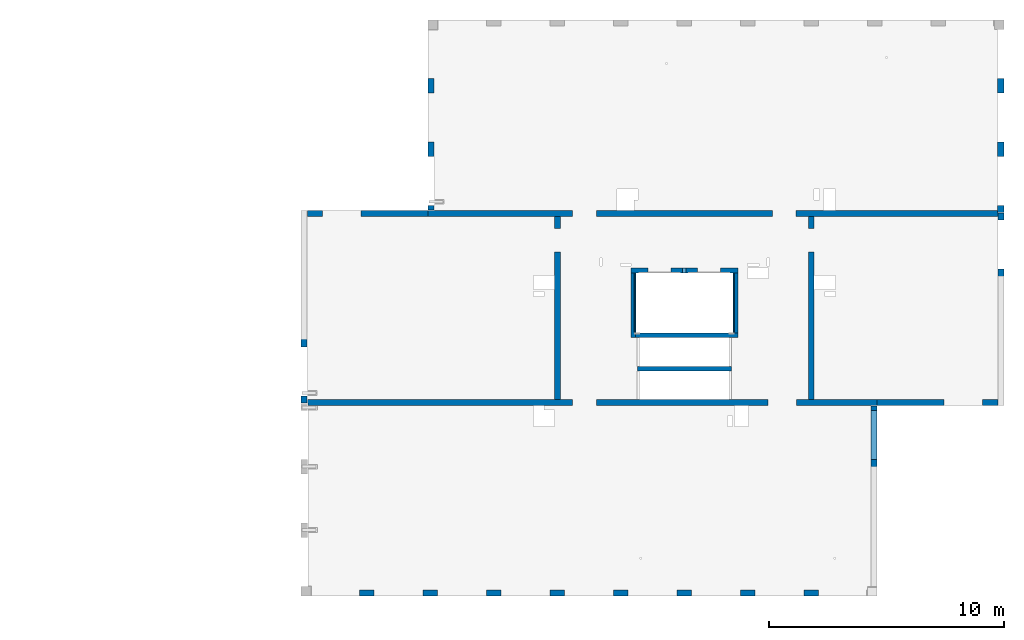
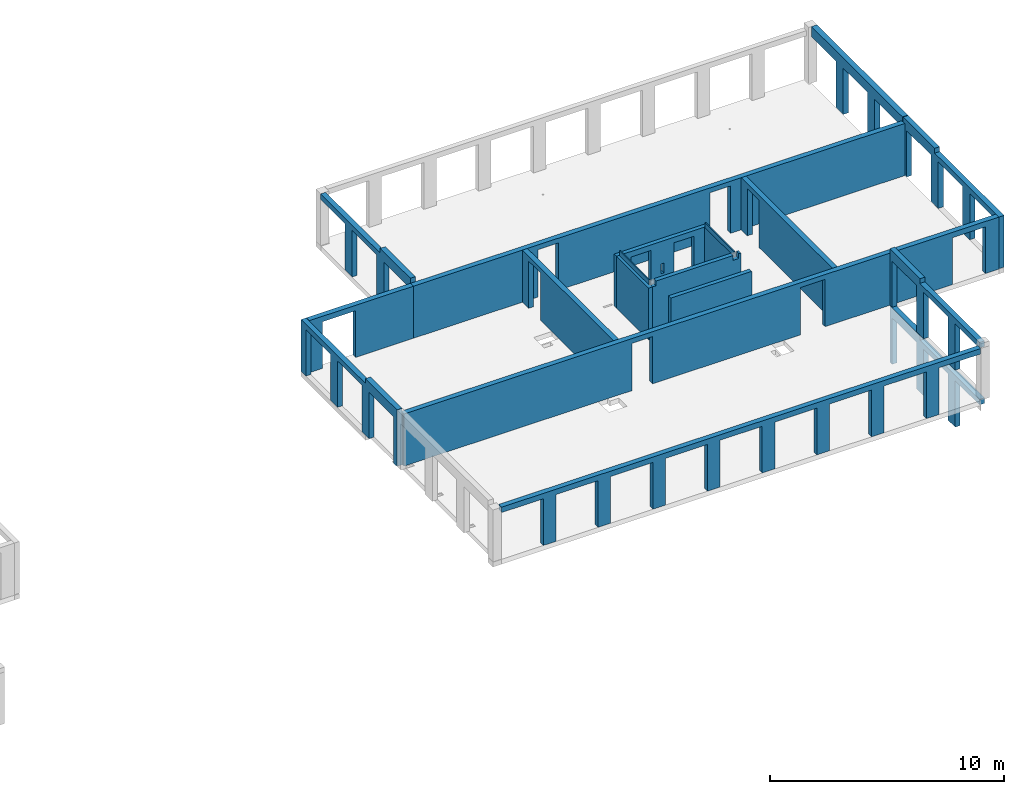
# One storey, part 4 of 9: 20 walls, 46 openings.
"""IFC2X3 building model written with IfcOpenShell, lengths in millimetres."""

import ifcopenshell
import ifcopenshell.guid

model = None  # the IFC model being written
_history = None  # IfcOwnerHistory: only IFC2X3 demands one
_inside = {}  # id of a spatial element -> (the spatial element, [elements in it])
_under = {}  # id of a project, library or spatial element -> (it, [spatial elements below it])
_declared = {}  # id of a project -> (the project, [libraries it declares])
_typed = {}  # id of a type object -> (the type object, [elements of that type])
_made_of = {}  # id of a material, layer set ... -> (it, [elements and type objects made of it])


def new_model(schema):
    """Start an empty IFC model of exactly this schema.

    Asked for "IFC4X3", IfcOpenShell would pick the latest addendum, in which some entities
    have other attributes; the version numbers below select the first issue.
    IFC2X3 requires an IfcOwnerHistory on every rooted entity: one is made here for all.
    """
    global model, _history
    if schema == "IFC4X3":
        model = ifcopenshell.file(schema_version=(4, 3, 0, 0))
    else:
        model = ifcopenshell.file(schema=schema)
    _inside.clear()
    _under.clear()
    _declared.clear()
    _typed.clear()
    _made_of.clear()
    _history = None
    if model.schema == "IFC2X3":
        org = make("IfcOrganization", Name="unknown")
        user = make(
            "IfcPersonAndOrganization",
            ThePerson=make("IfcPerson", FamilyName="unknown"),
            TheOrganization=org,
        )
        app = make(
            "IfcApplication",
            ApplicationDeveloper=org,
            Version="unknown",
            ApplicationFullName="unknown",
            ApplicationIdentifier="unknown",
        )
        _history = make(
            "IfcOwnerHistory",
            OwningUser=user,
            OwningApplication=app,
            ChangeAction="ADDED",
            CreationDate=0,
        )
    return model


def make(cls, **values):
    """One entity of the class cls with the attributes given. An attribute that is None is left unset."""
    return model.create_entity(
        cls, **{name: value for name, value in values.items() if value is not None}
    )


def entity(cls, *values):
    """Any entity or typed value of the class cls, its attributes in the order of the schema. None: left unset."""
    e = model.create_entity(cls)
    for i, value in enumerate(values):
        if value is not None:
            e[i] = value
    return e


def rooted(cls, **values):
    """An entity with a GlobalId (a new one), such as an element, a storey or a relation."""
    return make(cls, GlobalId=ifcopenshell.guid.new(), OwnerHistory=_history, **values)


def si_unit(unit_type, name, prefix=None):
    """IfcSIUnit, for example si_unit("LENGTHUNIT", "METRE", prefix="MILLI")."""
    return make("IfcSIUnit", UnitType=unit_type, Prefix=prefix, Name=name)


def converted_unit(unit_type, name, factor, base, dimensions=None, offset=None):
    """IfcConversionBasedUnit, such as the inch: factor (a typed value) times the base unit."""
    return make(
        "IfcConversionBasedUnit"
        if offset is None
        else "IfcConversionBasedUnitWithOffset",
        ConversionOffset=offset,
        Dimensions=None
        if dimensions is None
        else entity("IfcDimensionalExponents", *dimensions),
        UnitType=unit_type,
        Name=name,
        ConversionFactor=make(
            "IfcMeasureWithUnit", ValueComponent=factor, UnitComponent=base
        ),
    )


def derived_unit(unit_type, elements):
    """IfcDerivedUnit: a product of units, each with its exponent."""
    return make(
        "IfcDerivedUnit",
        Elements=[
            make("IfcDerivedUnitElement", Unit=unit, Exponent=power)
            for unit, power in elements
        ],
        UnitType=unit_type,
    )


def assignment(units):
    """IfcUnitAssignment: the units of a project."""
    return None if units is None else make("IfcUnitAssignment", Units=units)


def point(xyz):
    """IfcCartesianPoint."""
    return None if xyz is None else make("IfcCartesianPoint", Coordinates=xyz)


def direction(xyz):
    """IfcDirection."""
    return None if xyz is None else make("IfcDirection", DirectionRatios=xyz)


def frame(location, z_axis=None, x_axis=None):
    """IfcAxis2Placement3D, a coordinate frame: its origin and axes. An axis left out is left unset."""
    return make(
        "IfcAxis2Placement3D",
        Location=point(location),
        Axis=direction(z_axis),
        RefDirection=direction(x_axis),
    )


def frame_2d(location, x_axis=None):
    """IfcAxis2Placement2D, a coordinate frame in the plane: its origin and x axis."""
    return make(
        "IfcAxis2Placement2D", Location=point(location), RefDirection=direction(x_axis)
    )


def origin():
    """The frame at (0, 0, 0) with its axes left unset."""
    return frame((0.0, 0.0, 0.0))


def place(relative_to, where):
    """IfcLocalPlacement: puts the frame where relative to a parent placement (None: the world)."""
    return make(
        "IfcLocalPlacement", PlacementRelTo=relative_to, RelativePlacement=where
    )


def context(
    kind, dimensions, precision=None, world=None, true_north=None, identifier=None
):
    """IfcGeometricRepresentationContext, for example the 3D "Model" context."""
    return make(
        "IfcGeometricRepresentationContext",
        ContextIdentifier=identifier,
        ContextType=kind,
        CoordinateSpaceDimension=dimensions,
        Precision=precision,
        WorldCoordinateSystem=world,
        TrueNorth=true_north,
    )


def subcontext(parent, identifier, kind, view, scale=None):
    """IfcGeometricRepresentationSubContext, for example "Body" below "Model"."""
    return make(
        "IfcGeometricRepresentationSubContext",
        ContextIdentifier=identifier,
        ContextType=kind,
        ParentContext=parent,
        TargetScale=scale,
        TargetView=view,
    )


def project(units=None, contexts=None):
    """IfcProject with its units and contexts."""
    return rooted(
        "IfcProject",
        Name="project",
        RepresentationContexts=contexts,
        UnitsInContext=assignment(units),
    )


def spatial(cls, under=None, at=None, **own):
    """A site, building, storey or space (cls), placed at a placement, below another one or the project."""
    s = rooted(cls, ObjectPlacement=at, **own)
    if under is not None:
        _under.setdefault(under.id(), (under, []))[1].append(s)
    return s


def profile(cls, at=None, kind="AREA", **sizes):
    """A parametric profile (cls). Its sizes go by their IFC names, for example OverallWidth=200.0."""
    return make(cls, ProfileType=kind, Position=at, **sizes)


def rectangle(**sizes):
    """IfcRectangleProfileDef."""
    return profile("IfcRectangleProfileDef", **sizes)


def extrude(swept, where, along, depth):
    """IfcExtrudedAreaSolid: the profile swept, set in the frame where, extruded along a direction by depth."""
    return make(
        "IfcExtrudedAreaSolid",
        SweptArea=swept,
        Position=where,
        ExtrudedDirection=direction(along),
        Depth=depth,
    )


def shape(context_of_items, identifier, shape_type, items):
    """IfcShapeRepresentation: the items that make up one representation, for example the "Body"."""
    return make(
        "IfcShapeRepresentation",
        ContextOfItems=context_of_items,
        RepresentationIdentifier=identifier,
        RepresentationType=shape_type,
        Items=items,
    )


def material(Name=None, Category=None):
    """IfcMaterial."""
    return make("IfcMaterial", Name=Name, Category=Category)


def layer(
    of_material, thickness, ventilated=None, Name=None, Category=None, Priority=None
):
    """IfcMaterialLayer: one layer of a wall or slab, of a material (None: an air gap)."""
    return make(
        "IfcMaterialLayer",
        Material=of_material,
        LayerThickness=thickness,
        IsVentilated=ventilated,
        Name=Name,
        Category=Category,
        Priority=Priority,
    )


def layer_set(layers, Name=None):
    """IfcMaterialLayerSet."""
    return make("IfcMaterialLayerSet", MaterialLayers=layers, LayerSetName=Name)


def layer_usage(for_layer_set, set_direction, sense, offset, extent=None):
    """IfcMaterialLayerSetUsage: how a layer set lies in its element."""
    return make(
        "IfcMaterialLayerSetUsage",
        ForLayerSet=for_layer_set,
        LayerSetDirection=set_direction,
        DirectionSense=sense,
        OffsetFromReferenceLine=offset,
        ReferenceExtent=extent,
    )


def made_of(thing, what):
    """Note that an element or type object is made of a material, layer set ...; save() writes the relation."""
    if what is not None:
        _made_of.setdefault(what.id(), (what, []))[1].append(thing)
    return thing


def type_object(cls, material=None, **own):
    """A type object (cls), such as IfcWallType, which elements share."""
    return made_of(rooted(cls, **own), material)


def element(
    cls,
    number,
    at=None,
    inside=None,
    cuts=None,
    type_object=None,
    material=None,
    context=None,
    identifier="Body",
    shape_type=None,
    held_by="IfcProductDefinitionShape",
    body=None,
    shapes=None,
    **own,
):
    """One element of the class cls, such as IfcWall. Its Tag is "e" and its number.

    at: its placement. inside: the storey or other place that contains it. cuts: it is an
    opening in that element (IfcRelVoidsElement). A single representation is given by context,
    identifier, shape_type and body (its items); several are given by shapes. held_by: the class
    of the entity that holds the representations. save() writes the other relations.
    """
    e = rooted(cls, Tag="e%d" % number, ObjectPlacement=at, **own)
    if body is not None:
        shapes = [shape(context, identifier, shape_type, body)]
    if shapes is not None:
        e.Representation = make(held_by, Representations=shapes)
    if inside is not None:
        _inside.setdefault(inside.id(), (inside, []))[1].append(e)
    if cuts is not None:
        rooted(
            "IfcRelVoidsElement", RelatingBuildingElement=cuts, RelatedOpeningElement=e
        )
    if type_object is not None:
        _typed.setdefault(type_object.id(), (type_object, []))[1].append(e)
    return made_of(e, material)


def aggregate(whole, parts):
    """IfcRelAggregates: a whole, such as a stair, and the parts it consists of."""
    return rooted("IfcRelAggregates", RelatingObject=whole, RelatedObjects=parts)


def save(model, path):
    """Write the relations noted so far, then the file.

    IfcRelAggregates (storeys below a building ...), IfcRelContainedInSpatialStructure (elements
    in a storey), IfcRelDefinesByType, IfcRelAssociatesMaterial and IfcRelDeclares: one each for
    every whole, place, type object, material and project.
    """
    for whole, parts in _under.values():
        aggregate(whole, parts)
    for where, things in _inside.values():
        rooted(
            "IfcRelContainedInSpatialStructure",
            RelatedElements=things,
            RelatingStructure=where,
        )
    for kind, things in _typed.values():
        rooted("IfcRelDefinesByType", RelatedObjects=things, RelatingType=kind)
    for what, things in _made_of.values():
        rooted("IfcRelAssociatesMaterial", RelatedObjects=things, RelatingMaterial=what)
    for by, libraries in _declared.values():
        rooted("IfcRelDeclares", RelatingContext=by, RelatedDefinitions=libraries)
    model.write(path)


model = new_model("IFC2X3")

# Units and contexts
model_context = context("Model", 3, precision=0.01, world=origin(), true_north=direction((6.12303176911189e-17, 1.0)))
body_context = subcontext(model_context, "Body", "Model", "MODEL_VIEW")
ifc_project = project(units=[si_unit("LENGTHUNIT", "METRE", prefix="MILLI"), si_unit("AREAUNIT", "SQUARE_METRE"), si_unit("VOLUMEUNIT", "CUBIC_METRE"), converted_unit("PLANEANGLEUNIT", "DEGREE", entity("IfcRatioMeasure", 0.0174532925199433), si_unit("PLANEANGLEUNIT", "RADIAN"), dimensions=[0, 0, 0, 0, 0, 0, 0]), si_unit("MASSUNIT", "GRAM", prefix="KILO"), derived_unit("MASSDENSITYUNIT", [(si_unit("MASSUNIT", "GRAM", prefix="KILO"), 1), (si_unit("LENGTHUNIT", "METRE"), -3)]), si_unit("TIMEUNIT", "SECOND"), si_unit("FREQUENCYUNIT", "HERTZ"), si_unit("THERMODYNAMICTEMPERATUREUNIT", "DEGREE_CELSIUS"), derived_unit("THERMALTRANSMITTANCEUNIT", [(si_unit("MASSUNIT", "GRAM", prefix="KILO"), 1), (si_unit("THERMODYNAMICTEMPERATUREUNIT", "KELVIN"), -1), (si_unit("TIMEUNIT", "SECOND"), -3)]), derived_unit("VOLUMETRICFLOWRATEUNIT", [(si_unit("LENGTHUNIT", "METRE"), 3), (si_unit("TIMEUNIT", "SECOND"), -1)]), si_unit("ELECTRICCURRENTUNIT", "AMPERE"), si_unit("ELECTRICVOLTAGEUNIT", "VOLT"), si_unit("POWERUNIT", "WATT"), si_unit("FORCEUNIT", "NEWTON", prefix="KILO"), si_unit("ILLUMINANCEUNIT", "LUX"), si_unit("LUMINOUSFLUXUNIT", "LUMEN"), si_unit("LUMINOUSINTENSITYUNIT", "CANDELA"), derived_unit("USERDEFINED", [(si_unit("MASSUNIT", "GRAM", prefix="KILO"), -1), (si_unit("LENGTHUNIT", "METRE"), -2), (si_unit("TIMEUNIT", "SECOND"), 3), (si_unit("LUMINOUSFLUXUNIT", "LUMEN"), 1)]), derived_unit("LINEARVELOCITYUNIT", [(si_unit("LENGTHUNIT", "METRE"), 1), (si_unit("TIMEUNIT", "SECOND"), -1)]), si_unit("PRESSUREUNIT", "PASCAL"), derived_unit("USERDEFINED", [(si_unit("LENGTHUNIT", "METRE"), -2), (si_unit("MASSUNIT", "GRAM", prefix="KILO"), 1), (si_unit("TIMEUNIT", "SECOND"), -2)])], contexts=[model_context])

# Site, building, storey
site_placement = place(None, origin())
site = spatial("IfcSite", under=ifc_project, at=site_placement, Name="Default", CompositionType="ELEMENT")
building_placement = place(site_placement, origin())
building = spatial("IfcBuilding", under=site, at=building_placement, Name="niet gebruiken", CompositionType="ELEMENT")
storey_placement = place(building_placement, frame((0.0, 0.0, 33390.0)))
storey = spatial("IfcBuildingStorey", under=building, at=storey_placement, Name="11 elfde verdieping", CompositionType="ELEMENT", Elevation=33390.0)

# Wall, openings
ifc_material_1 = material(Name="NLRS_f2_beton ihwg")
ifc_layer_1 = layer(ifc_material_1, 250.0)
ifc_layer_set_1 = layer_set([ifc_layer_1], Name="Basic Wall:NLRS_22.21_WA_beton ihwg d=250_gen")
ifc_layer_usage_1 = layer_usage(ifc_layer_set_1, "AXIS2", "NEGATIVE", 125.0)
wall_type_1 = type_object("IfcWallType", Name="Basic Wall:NLRS_22.21_WA_beton ihwg d=250_gen", PredefinedType="STANDARD", material=ifc_layer_set_1)
wall_1_placement = place(storey_placement, frame((75770.0, 36981.0, -90.0)))
wall_1 = element("IfcWallStandardCase", 1, at=wall_1_placement, inside=storey, type_object=wall_type_1, material=ifc_layer_usage_1, Name="Basic Wall:NLRS_22.21_WA_beton ihwg d=250_gen", ObjectType="Basic Wall:NLRS_22.21_WA_beton ihwg d=250_gen", context=body_context, shape_type="SweptSolid", body=[
    extrude(rectangle(XDim=24230.0, YDim=250.000000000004, at=frame_2d((12115.0, 0.0), x_axis=(-1.0, 0.0))), origin(), (0.0, 0.0, 1.0), 2719.99999999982),
])
opening_1_placement = place(wall_1_placement, origin())
element("IfcOpeningElement", 2, at=opening_1_placement, cuts=wall_1, Name="Basic Wall:NLRS_22.21_WA_beton ihwg d=250_gen", ObjectType="Opening", context=body_context, shape_type="SweptSolid", body=[
    extrude(rectangle(XDim=2470.0, YDim=1225.0, at=frame_2d((-8.69704308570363e-12, 4.43378667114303e-12), x_axis=(0.0, 1.0))), frame((20192.5000000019, -1399.0, 1235.0), z_axis=(0.0, 1.0, 0.0), x_axis=(-1.0, 0.0, 0.0)), (0.0, 0.0, 1.0), 3048.0),
])
opening_2_placement = place(wall_1_placement, origin())
element("IfcOpeningElement", 3, at=opening_2_placement, cuts=wall_1, Name="Basic Wall:NLRS_22.21_WA_beton ihwg d=250_gen", ObjectType="Opening", context=body_context, shape_type="SweptSolid", body=[
    extrude(rectangle(XDim=2470.0, YDim=1006.0, at=frame_2d((8.66862137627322e-12, 0.0), x_axis=(0.0, 1.0))), frame((11782.0, -1399.0, 1235.0), z_axis=(0.0, 1.0, 0.0), x_axis=(-1.0, 0.0, 0.0)), (0.0, 0.0, 1.0), 3048.0),
])
opening_3_placement = place(wall_1_placement, origin())
element("IfcOpeningElement", 4, at=opening_3_placement, cuts=wall_1, Name="Basic Wall:NLRS_22.21_WA_beton ihwg d=250_gen", ObjectType="Recess", context=body_context, shape_type="SweptSolid", body=[
    extrude(rectangle(XDim=55000.0, YDim=19.9999999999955, at=frame_2d((0.0, 4.33164615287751e-12), x_axis=(1.0, 0.0))), frame((10.0, -140.0, 6710.0), z_axis=(0.0, 1.0, 0.0), x_axis=(0.0, 0.0, -1.0)), (0.0, 0.0, 1.0), 124.999999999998),
])

# Wall, opening
ifc_layer_usage_2 = layer_usage(ifc_layer_set_1, "AXIS2", "NEGATIVE", 125.0)
wall_2_placement = place(storey_placement, frame((75770.0, 45031.0, -90.0)))
wall_2 = element("IfcWallStandardCase", 5, at=wall_2_placement, inside=storey, type_object=wall_type_1, material=ifc_layer_usage_2, Name="Basic Wall:NLRS_22.21_WA_beton ihwg d=250_gen", ObjectType="Basic Wall:NLRS_22.21_WA_beton ihwg d=250_gen", context=body_context, shape_type="SweptSolid", body=[
    extrude(rectangle(XDim=5130.0, YDim=249.999999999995, at=frame_2d((2565.0, 0.0), x_axis=(-1.0, 0.0))), origin(), (0.0, 0.0, 1.0), 2719.99999999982),
])
opening_4_placement = place(wall_2_placement, origin())
element("IfcOpeningElement", 6, at=opening_4_placement, cuts=wall_2, Name="Basic Wall:NLRS_22.21_WA_beton ihwg d=250_gen", ObjectType="Opening", context=body_context, shape_type="SweptSolid", body=[
    extrude(rectangle(XDim=2440.0, YDim=1640.0, at=frame_2d((0.0, 4.37694325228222e-12), x_axis=(1.0, 0.0))), frame((1460.0, -1649.0, 1220.0), z_axis=(0.0, 1.0, 0.0), x_axis=(0.0, 0.0, 1.0)), (0.0, 0.0, 1.0), 3048.0),
])

ifc_layer_usage_3 = layer_usage(ifc_layer_set_1, "AXIS2", "NEGATIVE", 125.0)
wall_3_placement = place(storey_placement, frame((86400.0, 44906.0, -90.0), z_axis=(0.0, 0.0, 1.0), x_axis=(0.0, -1.0, 0.0)))
wall_3 = element("IfcWallStandardCase", 7, at=wall_3_placement, inside=storey, type_object=wall_type_1, material=ifc_layer_usage_3, Name="Basic Wall:NLRS_22.21_WA_beton ihwg d=250_gen", ObjectType="Basic Wall:NLRS_22.21_WA_beton ihwg d=250_gen", context=body_context, shape_type="SweptSolid", body=[
    extrude(rectangle(XDim=7799.99999999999, YDim=250.000000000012, at=frame_2d((3900.0, 0.0), x_axis=(-1.0, 0.0))), origin(), (0.0, 0.0, 1.0), 2719.99999999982),
])
opening_5_placement = place(wall_3_placement, origin())
element("IfcOpeningElement", 8, at=opening_5_placement, cuts=wall_3, Name="Basic Wall:NLRS_22.21_WA_beton ihwg d=250_gen", ObjectType="Opening", context=body_context, shape_type="SweptSolid", body=[
    extrude(rectangle(XDim=2470.0, YDim=1006.0, at=frame_2d((4.43378667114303e-12, 0.0), x_axis=(1.0, 0.0))), frame((1027.0, -1649.0, 1235.0), z_axis=(0.0, 1.0, 0.0), x_axis=(0.0, 0.0, 1.0)), (0.0, 0.0, 1.0), 3048.0),
])

ifc_layer_usage_4 = layer_usage(ifc_layer_set_1, "AXIS2", "NEGATIVE", 125.0)
wall_4_placement = place(storey_placement, frame((97200.0, 44906.0, -90.0), z_axis=(0.0, 0.0, 1.0), x_axis=(0.0, -1.0, 0.0)))
wall_4 = element("IfcWallStandardCase", 9, at=wall_4_placement, inside=storey, type_object=wall_type_1, material=ifc_layer_usage_4, Name="Basic Wall:NLRS_22.21_WA_beton ihwg d=250_gen", ObjectType="Basic Wall:NLRS_22.21_WA_beton ihwg d=250_gen", context=body_context, shape_type="SweptSolid", body=[
    extrude(rectangle(XDim=7799.99999999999, YDim=250.000000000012, at=frame_2d((3900.0, 0.0), x_axis=(-1.0, 0.0))), origin(), (0.0, 0.0, 1.0), 2719.99999999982),
])
opening_6_placement = place(wall_4_placement, origin())
element("IfcOpeningElement", 10, at=opening_6_placement, cuts=wall_4, Name="Basic Wall:NLRS_22.21_WA_beton ihwg d=250_gen", ObjectType="Opening", context=body_context, shape_type="SweptSolid", body=[
    extrude(rectangle(XDim=2470.0, YDim=1006.0, at=frame_2d((4.43378667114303e-12, 0.0), x_axis=(1.0, 0.0))), frame((1027.0, -1649.0, 1235.0), z_axis=(0.0, 1.0, 0.0), x_axis=(0.0, 0.0, 1.0)), (0.0, 0.0, 1.0), 3048.0),
])

# Wall, openings
ifc_layer_usage_5 = layer_usage(ifc_layer_set_1, "AXIS2", "NEGATIVE", 125.0)
wall_5_placement = place(storey_placement, frame((80900.0, 45031.0, -90.0)))
wall_5 = element("IfcWallStandardCase", 11, at=wall_5_placement, inside=storey, type_object=wall_type_1, material=ifc_layer_usage_5, Name="Basic Wall:NLRS_22.21_WA_beton ihwg d=250_gen", ObjectType="Basic Wall:NLRS_22.21_WA_beton ihwg d=250_gen", context=body_context, shape_type="SweptSolid", body=[
    extrude(rectangle(XDim=24250.0, YDim=249.999999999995, at=frame_2d((12125.0, 0.0), x_axis=(-1.0, 0.0))), origin(), (0.0, 0.0, 1.0), 2719.99999999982),
])
opening_7_placement = place(wall_5_placement, origin())
element("IfcOpeningElement", 12, at=opening_7_placement, cuts=wall_5, Name="Basic Wall:NLRS_22.21_WA_beton ihwg d=250_gen", ObjectType="Opening", context=body_context, shape_type="SweptSolid", body=[
    extrude(rectangle(XDim=2470.0, YDim=1006.0, at=frame_2d((4.43378667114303e-12, 8.66862137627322e-12), x_axis=(1.0, 0.0))), frame((15148.0, -1649.0, 1235.0), z_axis=(0.0, 1.0, 0.0), x_axis=(0.0, 0.0, 1.0)), (0.0, 0.0, 1.0), 3048.0),
])
opening_8_placement = place(wall_5_placement, origin())
element("IfcOpeningElement", 13, at=opening_8_placement, cuts=wall_5, Name="Basic Wall:NLRS_22.21_WA_beton ihwg d=250_gen", ObjectType="Opening", context=body_context, shape_type="SweptSolid", body=[
    extrude(rectangle(XDim=2470.0, YDim=1006.0, at=frame_2d((0.0, 8.66862137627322e-12), x_axis=(1.0, 0.0))), frame((6652.0, -1649.0, 1235.0), z_axis=(0.0, 1.0, 0.0), x_axis=(0.0, 0.0, 1.0)), (0.0, 0.0, 1.0), 3048.0),
])

# Wall, opening
ifc_layer_usage_6 = layer_usage(ifc_layer_set_1, "AXIS2", "NEGATIVE", 125.0)
wall_6_placement = place(storey_placement, frame((100000.0, 36981.0, -90.0)))
wall_6 = element("IfcWallStandardCase", 14, at=wall_6_placement, inside=storey, type_object=wall_type_1, material=ifc_layer_usage_6, Name="Basic Wall:NLRS_22.21_WA_beton ihwg d=250_gen", ObjectType="Basic Wall:NLRS_22.21_WA_beton ihwg d=250_gen", context=body_context, shape_type="SweptSolid", body=[
    extrude(rectangle(XDim=5150.00000000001, YDim=250.000000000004, at=frame_2d((2575.0, 0.0), x_axis=(-1.0, 0.0))), origin(), (0.0, 0.0, 1.0), 2719.99999999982),
])
opening_9_placement = place(wall_6_placement, origin())
element("IfcOpeningElement", 15, at=opening_9_placement, cuts=wall_6, Name="Basic Wall:NLRS_22.21_WA_beton ihwg d=250_gen", ObjectType="Opening", context=body_context, shape_type="SweptSolid", body=[
    extrude(rectangle(XDim=2440.0, YDim=1639.99999999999, at=frame_2d((-8.69704308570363e-12, 0.0), x_axis=(0.0, 1.0))), frame((3670.0, -1399.0, 1220.0), z_axis=(0.0, 1.0, 0.0), x_axis=(-1.0, 0.0, 0.0)), (0.0, 0.0, 1.0), 3048.0),
])

# Wall, openings
ifc_material_2 = material(Name="NLRS_f2_beton prefab")
ifc_layer_2 = layer(ifc_material_2, 250.0)
ifc_layer_set_2 = layer_set([ifc_layer_2], Name="Basic Wall:NLRS_21.21_WA_beton prefab d=250_gen")
ifc_layer_usage_7 = layer_usage(ifc_layer_set_2, "AXIS2", "NEGATIVE", 125.0)
wall_type_2 = type_object("IfcWallType", Name="Basic Wall:NLRS_21.21_WA_beton prefab d=250_gen", PredefinedType="STANDARD", material=ifc_layer_set_2)
wall_7_placement = place(storey_placement, frame((99875.0, 29166.0, -3040.0), z_axis=(0.0, 0.0, 1.0), x_axis=(0.0, 1.0, 0.0)))
wall_7 = element("IfcWallStandardCase", 16, at=wall_7_placement, inside=storey, type_object=wall_type_2, material=ifc_layer_usage_7, Name="Basic Wall:NLRS_21.21_WA_beton prefab d=250_gen", ObjectType="Basic Wall:NLRS_21.21_WA_beton prefab d=250_gen", context=body_context, shape_type="SweptSolid", body=[
    extrude(rectangle(XDim=7669.99999999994, YDim=250.000000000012, at=frame_2d((3834.99999999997, 0.0), x_axis=(-1.0, 0.0))), origin(), (0.0, 0.0, 1.0), 2949.99999999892),
])
opening_10_placement = place(wall_7_placement, origin())
element("IfcOpeningElement", 17, at=opening_10_placement, cuts=wall_7, Name="Basic Wall:NLRS_21.21_WA_beton prefab d=250_gen", ObjectType="Opening", context=body_context, shape_type="SweptSolid", body=[
    extrude(rectangle(XDim=2420.0, YDim=2080.0, at=frame_2d((-2.1600499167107e-12, 2.1600499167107e-12), x_axis=(0.0, 1.0))), frame((1040.0, -1399.0, 1210.0), z_axis=(0.0, 1.0, 0.0), x_axis=(-1.0, 0.0, 0.0)), (0.0, 0.0, 1.0), 3048.0),
])
opening_11_placement = place(wall_7_placement, origin())
element("IfcOpeningElement", 18, at=opening_11_placement, cuts=wall_7, Name="Basic Wall:NLRS_21.21_WA_beton prefab d=250_gen", ObjectType="Opening", context=body_context, shape_type="SweptSolid", body=[
    extrude(rectangle(XDim=2420.0, YDim=2080.0, at=frame_2d((2.1600499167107e-12, -2.1600499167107e-12), x_axis=(0.0, 1.0))), frame((3740.0, -1399.0, 1210.0), z_axis=(0.0, 1.0, 0.0), x_axis=(-1.0, 0.0, 0.0)), (0.0, 0.0, 1.0), 3048.0),
])
opening_12_placement = place(wall_7_placement, origin())
element("IfcOpeningElement", 19, at=opening_12_placement, cuts=wall_7, Name="Basic Wall:NLRS_21.21_WA_beton prefab d=250_gen", ObjectType="Opening", context=body_context, shape_type="SweptSolid", body=[
    extrude(rectangle(XDim=2420.0, YDim=2080.0, at=frame_2d((2.1600499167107e-12, -2.1600499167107e-12), x_axis=(0.0, 1.0))), frame((6440.0, -1399.0, 1210.0), z_axis=(0.0, 1.0, 0.0), x_axis=(-1.0, 0.0, 0.0)), (0.0, 0.0, 1.0), 3048.0),
])
opening_13_placement = place(wall_7_placement, origin())
element("IfcOpeningElement", 20, at=opening_13_placement, cuts=wall_7, Name="Basic Wall:NLRS_21.21_WA_beton prefab d=250_gen", ObjectType="Opening", context=body_context, shape_type="SweptSolid", body=[
    extrude(rectangle(XDim=249.999999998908, YDim=5090.00000000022, at=frame_2d((0.0, -2.16715534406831e-12), x_axis=(0.0, 1.0))), frame((2545.0, 125.0, 2825.0), z_axis=(0.0, -1.0, 0.0), x_axis=(-1.0, 0.0, 0.0)), (0.0, 0.0, 1.0), 250.0),
])

ifc_layer_usage_8 = layer_usage(ifc_layer_set_2, "AXIS2", "NEGATIVE", 125.0)
wall_8_placement = place(storey_placement, frame((75625.0, 45156.0, -70.0), z_axis=(0.0, 0.0, 1.0), x_axis=(0.0, -1.0, 0.0)))
wall_8 = element("IfcWallStandardCase", 21, at=wall_8_placement, inside=storey, type_object=wall_type_2, material=ifc_layer_usage_8, Name="Basic Wall:NLRS_21.21_WA_beton prefab d=250_gen", ObjectType="Basic Wall:NLRS_21.21_WA_beton prefab d=250_gen", context=body_context, shape_type="SweptSolid", body=[
    extrude(rectangle(XDim=8189.99999999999, YDim=249.999999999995, at=frame_2d((4095.0, 0.0), x_axis=(-1.0, 0.0))), origin(), (0.0, 0.0, 1.0), 2949.99999999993),
])
opening_14_placement = place(wall_8_placement, origin())
element("IfcOpeningElement", 22, at=opening_14_placement, cuts=wall_8, Name="Basic Wall:NLRS_21.21_WA_beton prefab d=250_gen", ObjectType="Opening", context=body_context, shape_type="SweptSolid", body=[
    extrude(rectangle(XDim=2420.0, YDim=2080.0, at=frame_2d((0.0, 2.1600499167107e-12), x_axis=(0.0, 1.0))), frame((1450.0, -1399.0, 1210.0), z_axis=(0.0, 1.0, 0.0), x_axis=(-1.0, 0.0, 0.0)), (0.0, 0.0, 1.0), 3048.0),
])
opening_15_placement = place(wall_8_placement, origin())
element("IfcOpeningElement", 23, at=opening_15_placement, cuts=wall_8, Name="Basic Wall:NLRS_21.21_WA_beton prefab d=250_gen", ObjectType="Opening", context=body_context, shape_type="SweptSolid", body=[
    extrude(rectangle(XDim=2420.0, YDim=2080.0, at=frame_2d((0.0, 2.1600499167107e-12), x_axis=(0.0, 1.0))), frame((4150.0, -1399.0, 1210.0), z_axis=(0.0, 1.0, 0.0), x_axis=(-1.0, 0.0, 0.0)), (0.0, 0.0, 1.0), 3048.0),
])
opening_16_placement = place(wall_8_placement, origin())
element("IfcOpeningElement", 24, at=opening_16_placement, cuts=wall_8, Name="Basic Wall:NLRS_21.21_WA_beton prefab d=250_gen", ObjectType="Opening", context=body_context, shape_type="SweptSolid", body=[
    extrude(rectangle(XDim=2420.0, YDim=2080.0, at=frame_2d((0.0, -2.1600499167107e-12), x_axis=(0.0, 1.0))), frame((6850.0, -1399.0, 1210.0), z_axis=(0.0, 1.0, 0.0), x_axis=(-1.0, 0.0, 0.0)), (0.0, 0.0, 1.0), 3048.0),
])
opening_17_placement = place(wall_8_placement, origin())
element("IfcOpeningElement", 25, at=opening_17_placement, cuts=wall_8, Name="Basic Wall:NLRS_21.21_WA_beton prefab d=250_gen", ObjectType="Opening", context=body_context, shape_type="SweptSolid", body=[
    extrude(rectangle(XDim=250.000000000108, YDim=5499.99999999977, at=frame_2d((0.0, 0.0), x_axis=(0.0, 1.0))), frame((2750.0, 125.0, 2825.0), z_axis=(0.0, -1.0, 0.0), x_axis=(-1.0, 0.0, 0.0)), (0.0, 0.0, 1.0), 250.0),
])

ifc_layer_usage_9 = layer_usage(ifc_layer_set_2, "AXIS2", "NEGATIVE", 125.0)
wall_9_placement = place(storey_placement, frame((81025.0, 52846.0, -70.0), z_axis=(0.0, 0.0, 1.0), x_axis=(0.0, -1.0, 0.0)))
wall_9 = element("IfcWallStandardCase", 26, at=wall_9_placement, inside=storey, type_object=wall_type_2, material=ifc_layer_usage_9, Name="Basic Wall:NLRS_21.21_WA_beton prefab d=250_gen", ObjectType="Basic Wall:NLRS_21.21_WA_beton prefab d=250_gen", context=body_context, shape_type="SweptSolid", body=[
    extrude(rectangle(XDim=7670.00000000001, YDim=250.000000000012, at=frame_2d((3835.0, 0.0), x_axis=(-1.0, 0.0))), origin(), (0.0, 0.0, 1.0), 2949.99999999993),
])
opening_18_placement = place(wall_9_placement, origin())
element("IfcOpeningElement", 27, at=opening_18_placement, cuts=wall_9, Name="Basic Wall:NLRS_21.21_WA_beton prefab d=250_gen", ObjectType="Opening", context=body_context, shape_type="SweptSolid", body=[
    extrude(rectangle(XDim=2420.0, YDim=2080.0, at=frame_2d((-8.64019966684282e-12, -2.1600499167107e-12), x_axis=(0.0, 1.0))), frame((1040.0, -1399.0, 1210.0), z_axis=(0.0, 1.0, 0.0), x_axis=(-1.0, 0.0, 0.0)), (0.0, 0.0, 1.0), 3048.0),
])
opening_19_placement = place(wall_9_placement, origin())
element("IfcOpeningElement", 28, at=opening_19_placement, cuts=wall_9, Name="Basic Wall:NLRS_21.21_WA_beton prefab d=250_gen", ObjectType="Opening", context=body_context, shape_type="SweptSolid", body=[
    extrude(rectangle(XDim=2420.0, YDim=2080.0, at=frame_2d((0.0, 2.1600499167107e-12), x_axis=(0.0, 1.0))), frame((3740.0, -1399.0, 1210.0), z_axis=(0.0, 1.0, 0.0), x_axis=(-1.0, 0.0, 0.0)), (0.0, 0.0, 1.0), 3048.0),
])
opening_20_placement = place(wall_9_placement, origin())
element("IfcOpeningElement", 29, at=opening_20_placement, cuts=wall_9, Name="Basic Wall:NLRS_21.21_WA_beton prefab d=250_gen", ObjectType="Opening", context=body_context, shape_type="SweptSolid", body=[
    extrude(rectangle(XDim=2420.0, YDim=2080.0, at=frame_2d((0.0, -2.1600499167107e-12), x_axis=(0.0, 1.0))), frame((6440.0, -1399.0, 1210.0), z_axis=(0.0, 1.0, 0.0), x_axis=(-1.0, 0.0, 0.0)), (0.0, 0.0, 1.0), 3048.0),
])
opening_21_placement = place(wall_9_placement, origin())
element("IfcOpeningElement", 30, at=opening_21_placement, cuts=wall_9, Name="Basic Wall:NLRS_21.21_WA_beton prefab d=250_gen", ObjectType="Opening", context=body_context, shape_type="SweptSolid", body=[
    extrude(rectangle(XDim=250.000000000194, YDim=5089.99999999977, at=frame_2d((-4.32009983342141e-12, 0.0), x_axis=(0.0, 1.0))), frame((2545.0, 125.0, 2825.0), z_axis=(0.0, -1.0, 0.0), x_axis=(-1.0, 0.0, 0.0)), (0.0, 0.0, 1.0), 250.0),
])

ifc_layer_usage_10 = layer_usage(ifc_layer_set_2, "AXIS2", "NEGATIVE", 125.0)
wall_10_placement = place(storey_placement, frame((105275.0, 45046.0, -70.0), z_axis=(0.0, 0.0, 1.0), x_axis=(0.0, -1.0, 0.0)))
wall_10 = element("IfcWallStandardCase", 31, at=wall_10_placement, inside=storey, type_object=wall_type_2, material=ifc_layer_usage_10, Name="Basic Wall:NLRS_21.21_WA_beton prefab d=250_gen", ObjectType="Basic Wall:NLRS_21.21_WA_beton prefab d=250_gen", context=body_context, shape_type="SweptSolid", body=[
    extrude(rectangle(XDim=8189.99999999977, YDim=250.000000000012, at=frame_2d((4094.99999999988, 0.0), x_axis=(-1.0, 0.0))), origin(), (0.0, 0.0, 1.0), 2949.99999999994),
])
opening_22_placement = place(wall_10_placement, origin())
element("IfcOpeningElement", 32, at=opening_22_placement, cuts=wall_10, Name="Basic Wall:NLRS_21.21_WA_beton prefab d=250_gen", ObjectType="Opening", context=body_context, shape_type="SweptSolid", body=[
    extrude(rectangle(XDim=2420.0, YDim=2080.0, at=frame_2d((0.0, -2.1600499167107e-12), x_axis=(0.0, 1.0))), frame((1340.0, -1399.0, 1210.0), z_axis=(0.0, 1.0, 0.0), x_axis=(-1.0, 0.0, 0.0)), (0.0, 0.0, 1.0), 3048.0),
])
opening_23_placement = place(wall_10_placement, origin())
element("IfcOpeningElement", 33, at=opening_23_placement, cuts=wall_10, Name="Basic Wall:NLRS_21.21_WA_beton prefab d=250_gen", ObjectType="Opening", context=body_context, shape_type="SweptSolid", body=[
    extrude(rectangle(XDim=2420.0, YDim=2080.0, at=frame_2d((0.0, -2.1600499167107e-12), x_axis=(0.0, 1.0))), frame((4040.0, -1399.0, 1210.0), z_axis=(0.0, 1.0, 0.0), x_axis=(-1.0, 0.0, 0.0)), (0.0, 0.0, 1.0), 3048.0),
])
opening_24_placement = place(wall_10_placement, origin())
element("IfcOpeningElement", 34, at=opening_24_placement, cuts=wall_10, Name="Basic Wall:NLRS_21.21_WA_beton prefab d=250_gen", ObjectType="Opening", context=body_context, shape_type="SweptSolid", body=[
    extrude(rectangle(XDim=2420.0, YDim=2080.0, at=frame_2d((0.0, -2.1600499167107e-12), x_axis=(0.0, 1.0))), frame((6740.0, -1399.0, 1210.0), z_axis=(0.0, 1.0, 0.0), x_axis=(-1.0, 0.0, 0.0)), (0.0, 0.0, 1.0), 3048.0),
])
opening_25_placement = place(wall_10_placement, origin())
element("IfcOpeningElement", 35, at=opening_25_placement, cuts=wall_10, Name="Basic Wall:NLRS_21.21_WA_beton prefab d=250_gen", ObjectType="Opening", context=body_context, shape_type="SweptSolid", body=[
    extrude(rectangle(XDim=249.99999999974, YDim=5500.0000000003, at=frame_2d((2.16715534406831e-12, 4.32009983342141e-12), x_axis=(1.0, 0.0))), frame((5440.0, 125.0, 2825.0), z_axis=(0.0, -1.0, 0.0), x_axis=(0.0, 0.0, 1.0)), (0.0, 0.0, 1.0), 250.0),
])

ifc_layer_usage_11 = layer_usage(ifc_layer_set_2, "AXIS2", "NEGATIVE", 125.0)
wall_11_placement = place(storey_placement, frame((99875.0, 29166.0, -70.0), z_axis=(0.0, 0.0, 1.0), x_axis=(0.0, 1.0, 0.0)))
wall_11 = element("IfcWallStandardCase", 36, at=wall_11_placement, inside=storey, type_object=wall_type_2, material=ifc_layer_usage_11, Name="Basic Wall:NLRS_21.21_WA_beton prefab d=250_gen", ObjectType="Basic Wall:NLRS_21.21_WA_beton prefab d=250_gen", context=body_context, shape_type="SweptSolid", body=[
    extrude(rectangle(XDim=7669.99999999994, YDim=250.000000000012, at=frame_2d((3834.99999999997, 0.0), x_axis=(-1.0, 0.0))), origin(), (0.0, 0.0, 1.0), 2949.99999999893),
])
opening_26_placement = place(wall_11_placement, origin())
element("IfcOpeningElement", 37, at=opening_26_placement, cuts=wall_11, Name="Basic Wall:NLRS_21.21_WA_beton prefab d=250_gen", ObjectType="Opening", context=body_context, shape_type="SweptSolid", body=[
    extrude(rectangle(XDim=2420.0, YDim=2080.0, at=frame_2d((2.1600499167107e-12, -2.1600499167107e-12), x_axis=(0.0, 1.0))), frame((1040.0, -1399.0, 1210.0), z_axis=(0.0, 1.0, 0.0), x_axis=(-1.0, 0.0, 0.0)), (0.0, 0.0, 1.0), 3048.0),
])
opening_27_placement = place(wall_11_placement, origin())
element("IfcOpeningElement", 38, at=opening_27_placement, cuts=wall_11, Name="Basic Wall:NLRS_21.21_WA_beton prefab d=250_gen", ObjectType="Opening", context=body_context, shape_type="SweptSolid", body=[
    extrude(rectangle(XDim=2420.0, YDim=2080.0, at=frame_2d((2.1600499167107e-12, -2.1600499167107e-12), x_axis=(0.0, 1.0))), frame((6440.0, -1399.0, 1210.0), z_axis=(0.0, 1.0, 0.0), x_axis=(-1.0, 0.0, 0.0)), (0.0, 0.0, 1.0), 3048.0),
])
opening_28_placement = place(wall_11_placement, origin())
element("IfcOpeningElement", 39, at=opening_28_placement, cuts=wall_11, Name="Basic Wall:NLRS_21.21_WA_beton prefab d=250_gen", ObjectType="Opening", context=body_context, shape_type="SweptSolid", body=[
    extrude(rectangle(XDim=2420.0, YDim=2080.0, at=frame_2d((2.1600499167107e-12, -2.1600499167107e-12), x_axis=(0.0, 1.0))), frame((3740.0, -1399.0, 1210.0), z_axis=(0.0, 1.0, 0.0), x_axis=(-1.0, 0.0, 0.0)), (0.0, 0.0, 1.0), 3048.0),
])
opening_29_placement = place(wall_11_placement, origin())
element("IfcOpeningElement", 40, at=opening_29_placement, cuts=wall_11, Name="Basic Wall:NLRS_21.21_WA_beton prefab d=250_gen", ObjectType="Opening", context=body_context, shape_type="SweptSolid", body=[
    extrude(rectangle(XDim=249.999999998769, YDim=5090.00000000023, at=frame_2d((0.0, -2.1600499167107e-12), x_axis=(0.0, 1.0))), frame((2545.0, 125.0, 2825.0), z_axis=(0.0, -1.0, 0.0), x_axis=(-1.0, 0.0, 0.0)), (0.0, 0.0, 1.0), 250.0),
])

# Wall
ifc_layer_3 = layer(ifc_material_2, 200.0)
ifc_layer_set_3 = layer_set([ifc_layer_3], Name="Basic Wall:NLRS_21.21_WA_beton prefab d=200_gen")
ifc_layer_usage_12 = layer_usage(ifc_layer_set_3, "AXIS2", "NEGATIVE", 100.0)
wall_type_3 = type_object("IfcWallType", Name="Basic Wall:NLRS_21.21_WA_beton prefab d=200_gen", PredefinedType="STANDARD", material=ifc_layer_set_3)
wall_12_placement = place(storey_placement, frame((89800.0, 38426.0, -70.0)))
element("IfcWallStandardCase", 41, at=wall_12_placement, inside=storey, type_object=wall_type_3, material=ifc_layer_usage_12, Name="Basic Wall:NLRS_21.21_WA_beton prefab d=200_gen", ObjectType="Basic Wall:NLRS_21.21_WA_beton prefab d=200_gen", context=body_context, shape_type="SweptSolid", body=[
    extrude(rectangle(XDim=3999.99999999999, YDim=199.999999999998, at=frame_2d((2000.0, 0.0), x_axis=(-1.0, 0.0))), origin(), (0.0, 0.0, 1.0), 2950.00000000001),
])

# Wall, openings
ifc_layer_4 = layer(ifc_material_2, 200.0)
ifc_layer_set_4 = layer_set([ifc_layer_4], Name="Basic Wall:NLRS_22.21_WA_beton prefab d=200_gen")
ifc_layer_usage_13 = layer_usage(ifc_layer_set_4, "AXIS2", "NEGATIVE", 100.0)
wall_type_4 = type_object("IfcWallType", Name="Basic Wall:NLRS_22.21_WA_beton prefab d=200_gen", PredefinedType="STANDARD", material=ifc_layer_set_4)
wall_13_placement = place(storey_placement, frame((89525.0, 42596.0, -70.0)))
wall_13 = element("IfcWallStandardCase", 42, at=wall_13_placement, inside=storey, type_object=wall_type_4, material=ifc_layer_usage_13, Name="Basic Wall:NLRS_22.21_WA_beton prefab d=200_gen", ObjectType="Basic Wall:NLRS_22.21_WA_beton prefab d=200_gen", context=body_context, shape_type="SweptSolid", body=[
    extrude(rectangle(XDim=4550.00000000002, YDim=200.000000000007, at=frame_2d((2275.00000000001, 7.8159700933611e-13), x_axis=(-1.0, 0.0))), origin(), (0.0, 0.0, 1.0), 2700.00000000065),
])
opening_30_placement = place(wall_13_placement, origin())
element("IfcOpeningElement", 43, at=opening_30_placement, cuts=wall_13, Name="Basic Wall:NLRS_22.21_WA_beton prefab d=200_gen", ObjectType="Opening", context=body_context, shape_type="SweptSolid", body=[
    extrude(rectangle(XDim=2430.0, YDim=980.000000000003, at=frame_2d((0.0, -8.66862137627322e-12), x_axis=(1.0, 0.0))), frame((1219.99984910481, -1624.0, 1195.0), z_axis=(0.0, 1.0, 0.0), x_axis=(0.0, 0.0, 1.0)), (0.0, 0.0, 1.0), 3048.0),
])
opening_31_placement = place(wall_13_placement, origin())
element("IfcOpeningElement", 44, at=opening_31_placement, cuts=wall_13, Name="Basic Wall:NLRS_22.21_WA_beton prefab d=200_gen", ObjectType="Opening", context=body_context, shape_type="SweptSolid", body=[
    extrude(rectangle(XDim=2430.0, YDim=980.000000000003, at=frame_2d((0.0, -8.66862137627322e-12), x_axis=(1.0, 0.0))), frame((3329.99984910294, -1624.0, 1195.0), z_axis=(0.0, 1.0, 0.0), x_axis=(0.0, 0.0, 1.0)), (0.0, 0.0, 1.0), 3048.0),
])
opening_32_placement = place(wall_13_placement, origin())
element("IfcOpeningElement", 45, at=opening_32_placement, cuts=wall_13, Name="Basic Wall:NLRS_22.21_WA_beton prefab d=200_gen", ObjectType="Opening", context=body_context, shape_type="SweptSolid", body=[
    extrude(rectangle(XDim=504.999999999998, YDim=135.000000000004, at=frame_2d((-2.1600499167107e-12, -8.66151594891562e-12), x_axis=(1.0, 0.0))), frame((2275.0, -1624.0, 1272.50000000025), z_axis=(0.0, 1.0, 0.0), x_axis=(0.0, 0.0, 1.0)), (0.0, 0.0, 1.0), 3048.0),
])

# Wall
ifc_layer_usage_14 = layer_usage(ifc_layer_set_4, "AXIS2", "NEGATIVE", 100.0)
wall_14_placement = place(storey_placement, frame((89625.0, 42496.0, -70.0), z_axis=(0.0, 0.0, 1.0), x_axis=(0.0, -1.0, 0.0)))
element("IfcWallStandardCase", 46, at=wall_14_placement, inside=storey, type_object=wall_type_4, material=ifc_layer_usage_14, Name="Basic Wall:NLRS_22.21_WA_beton prefab d=200_gen", ObjectType="Basic Wall:NLRS_22.21_WA_beton prefab d=200_gen", context=body_context, shape_type="SweptSolid", body=[
    extrude(rectangle(XDim=2749.99999999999, YDim=199.999999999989, at=frame_2d((1375.0, 0.0), x_axis=(-1.0, 0.0))), origin(), (0.0, 0.0, 1.0), 2699.99999999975),
])

# Wall, openings
ifc_layer_usage_15 = layer_usage(ifc_layer_set_4, "AXIS2", "NEGATIVE", 100.0)
wall_15_placement = place(storey_placement, frame((94075.0, 39846.0, -70.0), z_axis=(0.0, 0.0, 1.0), x_axis=(-1.0, 0.0, 0.0)))
wall_15 = element("IfcWallStandardCase", 47, at=wall_15_placement, inside=storey, type_object=wall_type_4, material=ifc_layer_usage_15, Name="Basic Wall:NLRS_22.21_WA_beton prefab d=200_gen", ObjectType="Basic Wall:NLRS_22.21_WA_beton prefab d=200_gen", context=body_context, shape_type="SweptSolid", body=[
    extrude(rectangle(XDim=4350.00000000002, YDim=200.000000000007, at=frame_2d((2175.00000000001, 0.0), x_axis=(-1.0, 0.0))), origin(), (0.0, 0.0, 1.0), 2949.99999999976),
])
opening_33_placement = place(wall_15_placement, origin())
element("IfcOpeningElement", 48, at=opening_33_placement, cuts=wall_15, Name="Basic Wall:NLRS_22.21_WA_beton prefab d=200_gen", ObjectType="Opening", context=body_context, shape_type="SweptSolid", body=[
    extrude(rectangle(XDim=249.999999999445, YDim=274.999967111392, at=frame_2d((-2.16715534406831e-12, 0.0), x_axis=(1.0, 0.0))), frame((4312.50001644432, 100.0, 2825.0), z_axis=(0.0, -1.0, 0.0), x_axis=(0.0, 0.0, 1.0)), (0.0, 0.0, 1.0), 200.0),
])
opening_34_placement = place(wall_15_placement, origin())
element("IfcOpeningElement", 49, at=opening_34_placement, cuts=wall_15, Name="Basic Wall:NLRS_22.21_WA_beton prefab d=200_gen", ObjectType="Opening", context=body_context, shape_type="SweptSolid", body=[
    extrude(rectangle(XDim=249.999999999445, YDim=274.999967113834, at=frame_2d((-8.65441052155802e-12, 2.16715534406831e-12), x_axis=(0.0, 1.0))), frame((237.49998355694, 100.0, 2825.0), z_axis=(0.0, -1.0, 0.0), x_axis=(-1.0, 0.0, 0.0)), (0.0, 0.0, 1.0), 200.0),
])

# Wall
ifc_layer_usage_16 = layer_usage(ifc_layer_set_4, "AXIS2", "NEGATIVE", 100.0)
wall_16_placement = place(storey_placement, frame((93975.0, 39946.0, -70.0), z_axis=(0.0, 0.0, 1.0), x_axis=(0.0, 1.0, 0.0)))
element("IfcWallStandardCase", 50, at=wall_16_placement, inside=storey, type_object=wall_type_4, material=ifc_layer_usage_16, Name="Basic Wall:NLRS_22.21_WA_beton prefab d=200_gen", ObjectType="Basic Wall:NLRS_22.21_WA_beton prefab d=200_gen", context=body_context, shape_type="SweptSolid", body=[
    extrude(rectangle(XDim=2549.99999999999, YDim=199.999999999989, at=frame_2d((1275.0, 0.0), x_axis=(-1.0, 0.0))), origin(), (0.0, 0.0, 1.0), 2699.99999999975),
])

# Wall, openings
ifc_layer_5 = layer(ifc_material_1, 250.0)
ifc_layer_set_5 = layer_set([ifc_layer_5], Name="Basic Wall:NLRS_21.21_WA_beton ihwg d=250_gen")
ifc_layer_usage_17 = layer_usage(ifc_layer_set_5, "AXIS2", "NEGATIVE", 125.0)
wall_type_5 = type_object("IfcWallType", Name="Basic Wall:NLRS_21.21_WA_beton ihwg d=250_gen", PredefinedType="STANDARD", material=ifc_layer_set_5)
wall_17_placement = place(storey_placement, frame((75930.0, 28881.0, -90.0)))
wall_17 = element("IfcWallStandardCase", 51, at=wall_17_placement, inside=storey, type_object=wall_type_5, material=ifc_layer_usage_17, Name="Basic Wall:NLRS_21.21_WA_beton ihwg d=250_gen", ObjectType="Basic Wall:NLRS_21.21_WA_beton ihwg d=250_gen", context=body_context, shape_type="SweptSolid", body=[
    extrude(rectangle(XDim=23640.0000000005, YDim=250.000000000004, at=frame_2d((11820.0000000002, -8.66862137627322e-13), x_axis=(-1.0, 0.0))), origin(), (0.0, 0.0, 1.0), 2720.00000000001),
])
opening_35_placement = place(wall_17_placement, origin())
element("IfcOpeningElement", 52, at=opening_35_placement, cuts=wall_17, Name="Basic Wall:NLRS_21.21_WA_beton ihwg d=250_gen", ObjectType="Opening", context=body_context, shape_type="SweptSolid", body=[
    extrude(rectangle(XDim=2440.0, YDim=2080.0, at=frame_2d((-8.64019966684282e-12, -2.1600499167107e-12), x_axis=(0.0, 1.0))), frame((22620.0, -1399.0, 1220.0), z_axis=(0.0, 1.0, 0.0), x_axis=(-1.0, 0.0, 0.0)), (0.0, 0.0, 1.0), 3048.0),
])
opening_36_placement = place(wall_17_placement, origin())
element("IfcOpeningElement", 53, at=opening_36_placement, cuts=wall_17, Name="Basic Wall:NLRS_21.21_WA_beton ihwg d=250_gen", ObjectType="Opening", context=body_context, shape_type="SweptSolid", body=[
    extrude(rectangle(XDim=2440.0, YDim=2080.0, at=frame_2d((-8.64019966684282e-12, 0.0), x_axis=(0.0, 1.0))), frame((19920.0, -1399.0, 1220.0), z_axis=(0.0, 1.0, 0.0), x_axis=(-1.0, 0.0, 0.0)), (0.0, 0.0, 1.0), 3048.0),
])
opening_37_placement = place(wall_17_placement, origin())
element("IfcOpeningElement", 54, at=opening_37_placement, cuts=wall_17, Name="Basic Wall:NLRS_21.21_WA_beton ihwg d=250_gen", ObjectType="Opening", context=body_context, shape_type="SweptSolid", body=[
    extrude(rectangle(XDim=2440.0, YDim=2080.0, at=frame_2d((-8.64019966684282e-12, -2.1600499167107e-12), x_axis=(0.0, 1.0))), frame((17220.0, -1399.0, 1220.0), z_axis=(0.0, 1.0, 0.0), x_axis=(-1.0, 0.0, 0.0)), (0.0, 0.0, 1.0), 3048.0),
])
opening_38_placement = place(wall_17_placement, origin())
element("IfcOpeningElement", 55, at=opening_38_placement, cuts=wall_17, Name="Basic Wall:NLRS_21.21_WA_beton ihwg d=250_gen", ObjectType="Opening", context=body_context, shape_type="SweptSolid", body=[
    extrude(rectangle(XDim=2440.0, YDim=2080.0, at=frame_2d((8.64019966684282e-12, 0.0), x_axis=(0.0, 1.0))), frame((14520.0, -1399.0, 1220.0), z_axis=(0.0, 1.0, 0.0), x_axis=(-1.0, 0.0, 0.0)), (0.0, 0.0, 1.0), 3048.0),
])
opening_39_placement = place(wall_17_placement, origin())
element("IfcOpeningElement", 56, at=opening_39_placement, cuts=wall_17, Name="Basic Wall:NLRS_21.21_WA_beton ihwg d=250_gen", ObjectType="Opening", context=body_context, shape_type="SweptSolid", body=[
    extrude(rectangle(XDim=2440.0, YDim=2080.0, at=frame_2d((-8.64019966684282e-12, -2.1600499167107e-12), x_axis=(0.0, 1.0))), frame((11820.0, -1399.0, 1220.0), z_axis=(0.0, 1.0, 0.0), x_axis=(-1.0, 0.0, 0.0)), (0.0, 0.0, 1.0), 3048.0),
])
opening_40_placement = place(wall_17_placement, origin())
element("IfcOpeningElement", 57, at=opening_40_placement, cuts=wall_17, Name="Basic Wall:NLRS_21.21_WA_beton ihwg d=250_gen", ObjectType="Opening", context=body_context, shape_type="SweptSolid", body=[
    extrude(rectangle(XDim=2440.0, YDim=2080.0, at=frame_2d((-8.64019966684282e-12, 0.0), x_axis=(0.0, 1.0))), frame((9120.0, -1399.0, 1220.0), z_axis=(0.0, 1.0, 0.0), x_axis=(-1.0, 0.0, 0.0)), (0.0, 0.0, 1.0), 3048.0),
])
opening_41_placement = place(wall_17_placement, origin())
element("IfcOpeningElement", 58, at=opening_41_placement, cuts=wall_17, Name="Basic Wall:NLRS_21.21_WA_beton ihwg d=250_gen", ObjectType="Opening", context=body_context, shape_type="SweptSolid", body=[
    extrude(rectangle(XDim=2440.0, YDim=2080.0, at=frame_2d((8.64019966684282e-12, 2.1600499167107e-12), x_axis=(0.0, 1.0))), frame((6420.0, -1399.0, 1220.0), z_axis=(0.0, 1.0, 0.0), x_axis=(-1.0, 0.0, 0.0)), (0.0, 0.0, 1.0), 3048.0),
])
opening_42_placement = place(wall_17_placement, origin())
element("IfcOpeningElement", 59, at=opening_42_placement, cuts=wall_17, Name="Basic Wall:NLRS_21.21_WA_beton ihwg d=250_gen", ObjectType="Opening", context=body_context, shape_type="SweptSolid", body=[
    extrude(rectangle(XDim=2440.0, YDim=2080.0, at=frame_2d((8.64019966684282e-12, 0.0), x_axis=(0.0, 1.0))), frame((3720.0, -1399.0, 1220.0), z_axis=(0.0, 1.0, 0.0), x_axis=(-1.0, 0.0, 0.0)), (0.0, 0.0, 1.0), 3048.0),
])
opening_43_placement = place(wall_17_placement, origin())
element("IfcOpeningElement", 60, at=opening_43_placement, cuts=wall_17, Name="Basic Wall:NLRS_21.21_WA_beton ihwg d=250_gen", ObjectType="Opening", context=body_context, shape_type="SweptSolid", body=[
    extrude(rectangle(XDim=2440.0, YDim=2080.0, at=frame_2d((0.0, -2.1600499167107e-12), x_axis=(0.0, 1.0))), frame((1020.0, -1399.0, 1220.0), z_axis=(0.0, 1.0, 0.0), x_axis=(-1.0, 0.0, 0.0)), (0.0, 0.0, 1.0), 3048.0),
])

ifc_layer_6 = layer(ifc_material_2, 270.0)
ifc_layer_set_6 = layer_set([ifc_layer_6], Name="Basic Wall:NLRS_21.21_WA_beton prefab d=270_gen")
ifc_layer_usage_18 = layer_usage(ifc_layer_set_6, "AXIS2", "NEGATIVE", 135.0)
wall_type_6 = type_object("IfcWallType", Name="Basic Wall:NLRS_21.21_WA_beton prefab d=270_gen", PredefinedType="STANDARD", material=ifc_layer_set_6)
wall_18_placement = place(storey_placement, frame((105265.0, 52846.0, -70.0), z_axis=(0.0, 0.0, 1.0), x_axis=(0.0, -1.0, 0.0)))
wall_18 = element("IfcWallStandardCase", 61, at=wall_18_placement, inside=storey, type_object=wall_type_6, material=ifc_layer_usage_18, Name="Basic Wall:NLRS_21.21_WA_beton prefab d=270_gen", ObjectType="Basic Wall:NLRS_21.21_WA_beton prefab d=270_gen", context=body_context, shape_type="SweptSolid", body=[
    extrude(rectangle(XDim=7780.00000000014, YDim=270.000000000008, at=frame_2d((3890.00000000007, 0.0), x_axis=(-1.0, 0.0))), origin(), (0.0, 0.0, 1.0), 2949.99999999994),
])
opening_44_placement = place(wall_18_placement, origin())
element("IfcOpeningElement", 62, at=opening_44_placement, cuts=wall_18, Name="Basic Wall:NLRS_21.21_WA_beton prefab d=270_gen", ObjectType="Opening", context=body_context, shape_type="SweptSolid", body=[
    extrude(rectangle(XDim=2420.0, YDim=2080.0, at=frame_2d((0.0, -2.1600499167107e-12), x_axis=(0.0, 1.0))), frame((1040.0, -1389.0, 1210.0), z_axis=(0.0, 1.0, 0.0), x_axis=(-1.0, 0.0, 0.0)), (0.0, 0.0, 1.0), 3048.0),
])
opening_45_placement = place(wall_18_placement, origin())
element("IfcOpeningElement", 63, at=opening_45_placement, cuts=wall_18, Name="Basic Wall:NLRS_21.21_WA_beton prefab d=270_gen", ObjectType="Opening", context=body_context, shape_type="SweptSolid", body=[
    extrude(rectangle(XDim=2420.0, YDim=2080.0, at=frame_2d((0.0, -2.1600499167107e-12), x_axis=(0.0, 1.0))), frame((3740.0, -1389.0, 1210.0), z_axis=(0.0, 1.0, 0.0), x_axis=(-1.0, 0.0, 0.0)), (0.0, 0.0, 1.0), 3048.0),
])
opening_46_placement = place(wall_18_placement, origin())
element("IfcOpeningElement", 64, at=opening_46_placement, cuts=wall_18, Name="Basic Wall:NLRS_21.21_WA_beton prefab d=270_gen", ObjectType="Opening", context=body_context, shape_type="SweptSolid", body=[
    extrude(rectangle(XDim=2420.0, YDim=2080.0, at=frame_2d((0.0, -2.1600499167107e-12), x_axis=(0.0, 1.0))), frame((6440.0, -1389.0, 1210.0), z_axis=(0.0, 1.0, 0.0), x_axis=(-1.0, 0.0, 0.0)), (0.0, 0.0, 1.0), 3048.0),
])

# Walls
ifc_layer_7 = layer(ifc_material_2, 60.0)
ifc_layer_set_7 = layer_set([ifc_layer_7], Name="Basic Wall:NLRS_22.21_WA_beton prefab d=60_gen")
ifc_layer_usage_19 = layer_usage(ifc_layer_set_7, "AXIS2", "NEGATIVE", 30.0)
wall_type_7 = type_object("IfcWallType", Name="Basic Wall:NLRS_22.21_WA_beton prefab d=60_gen", PredefinedType="STANDARD", material=ifc_layer_set_7)
wall_19_placement = place(storey_placement, frame((89695.0, 42476.0, 2630.0), z_axis=(0.0, 0.0, 1.0), x_axis=(0.0, -1.0, 0.0)))
element("IfcWallStandardCase", 65, at=wall_19_placement, inside=storey, type_object=wall_type_7, material=ifc_layer_usage_19, Name="Basic Wall:NLRS_22.21_WA_beton prefab d=60_gen", ObjectType="Basic Wall:NLRS_22.21_WA_beton prefab d=60_gen", context=body_context, shape_type="SweptSolid", body=[
    extrude(rectangle(XDim=2509.99999999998, YDim=59.9999999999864, at=frame_2d((1254.99999999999, 0.0), x_axis=(-1.0, 0.0))), origin(), (0.0, 0.0, 1.0), 250.000000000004),
])
ifc_layer_usage_20 = layer_usage(ifc_layer_set_7, "AXIS2", "POSITIVE", -30.0)
wall_20_placement = place(storey_placement, frame((93905.0, 42476.0, 2630.0), z_axis=(0.0, 0.0, 1.0), x_axis=(0.0, -1.0, 0.0)))
element("IfcWallStandardCase", 66, at=wall_20_placement, inside=storey, type_object=wall_type_7, material=ifc_layer_usage_20, Name="Basic Wall:NLRS_22.21_WA_beton prefab d=60_gen", ObjectType="Basic Wall:NLRS_22.21_WA_beton prefab d=60_gen", context=body_context, shape_type="SweptSolid", body=[
    extrude(rectangle(XDim=2509.99999999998, YDim=59.9999999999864, at=frame_2d((1254.99999999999, 0.0), x_axis=(-1.0, 0.0))), origin(), (0.0, 0.0, 1.0), 250.000000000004),
])

save(model, "model.ifc")
